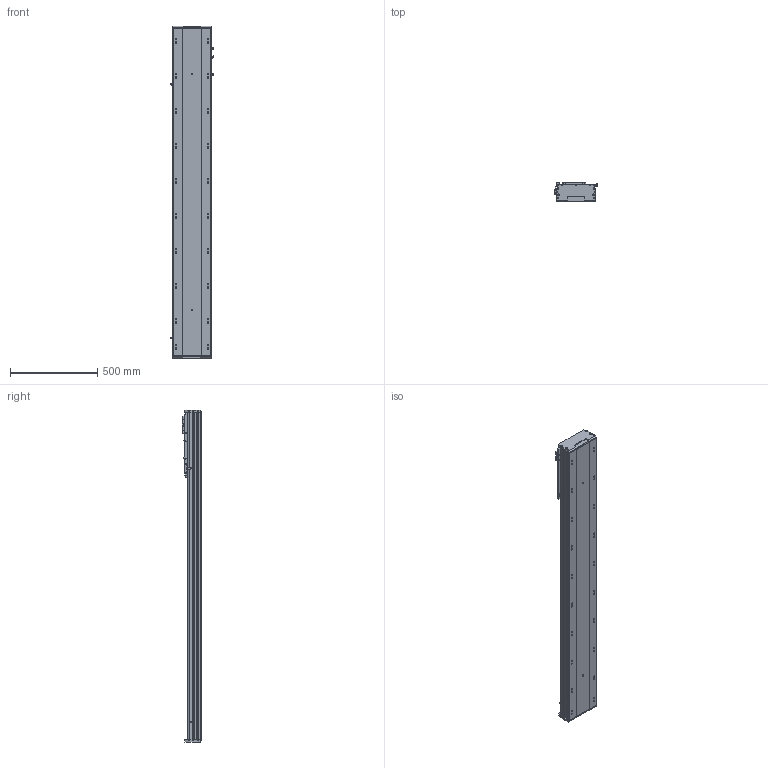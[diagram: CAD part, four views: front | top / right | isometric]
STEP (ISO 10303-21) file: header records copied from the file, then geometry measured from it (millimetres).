
FILE_DESCRIPTION (( 'STEP AP203' ), '1' );
FILE_NAME ('BEH22-A-M2-1450-L1-¦Õ22-PCD100-M6-C3.STEP', '2022-06-21T05:42:47', ( 'CXY' ), ( 'BT' ), 'SwSTEP 2.0', 'SolidWorks 2016', '' );
FILE_SCHEMA (( 'CONFIG_CONTROL_DESIGN' ));
Products named in the file (12): BEH22-04-01_L; BEH22-07-PCD100-80-M6; FS-01-10（10毫米）; BEH22-B-01-XX-2; BEH22-04-F; PM-T65; FS-02-BTH22; 萇儂階踡輸; BEH22-A-M2-1450-L1-耳22-PCD100-M6-C3; FS-25-6.66-M2-H22K6; BTH22-07-DZ; _G-M6
Assembly tree (18 placements, depth 3):
  BEH22-A-M2-1450-L1-耳22-PCD100-M6-C3
    BEH22-B-01-XX-2
    BTH22-07-DZ  x2
    PM-T65  x2
    BEH22-04-01_L
      BEH22-04-F
      萇儂階踡輸
      _G-M6  x3
      FS-02-BTH22
      FS-01-10（10毫米）  x4
      BEH22-07-PCD100-80-M6
      FS-25-6.66-M2-H22K6
Bounding box: 247.7 x 111 x 1898 mm (x, y, z)
Volume: 20596256.5 mm3; surface area: 2093289.6 mm2
Topology: 21 solids, 21 shells, 2004 faces, 5656 edges, 3650 vertices
Faces by surface type: cylinder 928, plane 784, cone 233, bspline 37, torus 22
Entity records: 450496 total; most frequent: CARTESIAN_POINT 407855, ORIENTED_EDGE 9132, DIRECTION 8106, EDGE_CURVE 4566, VERTEX_POINT 3010, AXIS2_PLACEMENT_3D 2968, LINE 2170, VECTOR 2170
